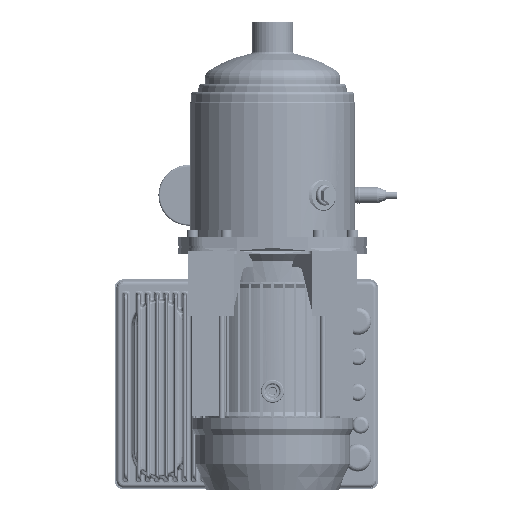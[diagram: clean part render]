
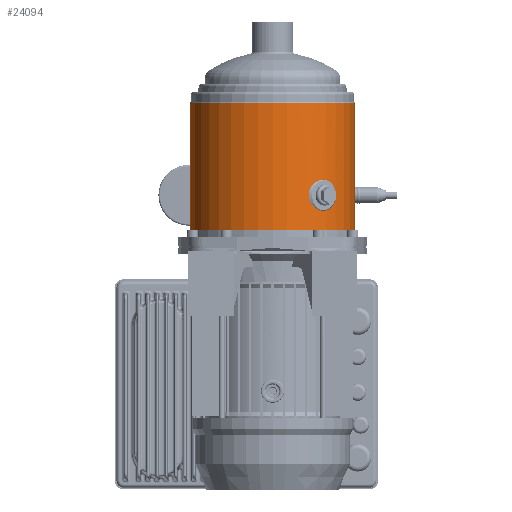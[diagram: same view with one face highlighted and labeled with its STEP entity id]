
A CAD part, front view. The second image highlights one B-rep face of the part: STEP entity #24094.
In plain terms, the highlighted cylindrical face has radius 72 mm (diameter 144 mm), a partial arc.
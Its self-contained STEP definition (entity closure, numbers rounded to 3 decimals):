
#21229=CARTESIAN_POINT('',(0.,8.4,0.));
#21230=DIRECTION('',(0.,1.,0.));
#21231=DIRECTION('',(0.,0.,-1.));
#21232=AXIS2_PLACEMENT_3D('',#21229,#21230,#21231);
#21303=DIRECTION('',(0.,1.,0.));
#21304=VECTOR('',#21303,110.614);
#21305=CARTESIAN_POINT('',(0.,8.4,-72.));
#21306=LINE('',#21305,#21304);
#21310=DIRECTION('',(0.,-1.,0.));
#21311=VECTOR('',#21310,110.614);
#21312=CARTESIAN_POINT('',(0.,119.014,72.));
#21313=LINE('',#21312,#21311);
#21317=CARTESIAN_POINT('',(-64.772,39.,
31.441));
#21318=CARTESIAN_POINT('',(-64.772,37.551,
31.441));
#21319=CARTESIAN_POINT('',(-64.552,34.752,
31.901));
#21320=CARTESIAN_POINT('',(-63.436,30.588,
34.11));
#21321=CARTESIAN_POINT('',(-61.387,27.256,
37.728));
#21322=CARTESIAN_POINT('',(-58.476,25.423,
42.129));
#21323=CARTESIAN_POINT('',(-55.02,25.424,
46.552));
#21324=CARTESIAN_POINT('',(-51.454,27.259,
50.44));
#21325=CARTESIAN_POINT('',(-48.44,30.593,
53.302));
#21326=CARTESIAN_POINT('',(-46.568,34.76,
54.919));
#21327=CARTESIAN_POINT('',(-46.177,37.554,
55.242));
#21328=CARTESIAN_POINT('',(-46.177,39.,
55.242));
#21333=CARTESIAN_POINT('',(-46.177,39.,
55.242));
#21334=CARTESIAN_POINT('',(-46.177,40.449,
55.242));
#21335=CARTESIAN_POINT('',(-46.57,43.248,
54.917));
#21336=CARTESIAN_POINT('',(-48.443,47.412,
53.3));
#21337=CARTESIAN_POINT('',(-51.458,50.744,
50.436));
#21338=CARTESIAN_POINT('',(-55.024,52.577,
46.547));
#21339=CARTESIAN_POINT('',(-58.48,52.576,
42.124));
#21340=CARTESIAN_POINT('',(-61.39,50.741,
37.723));
#21341=CARTESIAN_POINT('',(-63.438,47.407,
34.107));
#21342=CARTESIAN_POINT('',(-64.554,43.24,
31.899));
#21343=CARTESIAN_POINT('',(-64.772,40.446,
31.441));
#21344=CARTESIAN_POINT('',(-64.772,39.,
31.441));
#21357=CARTESIAN_POINT('',(0.,119.014,0.));
#21358=DIRECTION('',(0.,-1.,0.));
#21359=DIRECTION('',(0.,0.,1.));
#21360=AXIS2_PLACEMENT_3D('',#21357,#21358,#21359);
#23349=CARTESIAN_POINT('',(0.,8.4,72.));
#23350=CARTESIAN_POINT('',(0.,8.4,-72.));
#23351=VERTEX_POINT('',#23349);
#23352=VERTEX_POINT('',#23350);
#23353=CARTESIAN_POINT('',(0.,119.014,-72.));
#23354=VERTEX_POINT('',#23353);
#23355=CARTESIAN_POINT('',(0.,119.014,72.));
#23356=VERTEX_POINT('',#23355);
#23361=VERTEX_POINT('',#21317);
#23362=VERTEX_POINT('',#21328);
#24076=CARTESIAN_POINT('',(0.,121.227,0.));
#24077=DIRECTION('',(0.,-1.,0.));
#24078=DIRECTION('',(0.,0.,1.));
#24079=AXIS2_PLACEMENT_3D('',#24076,#24077,#24078);
#24080=CYLINDRICAL_SURFACE('',#24079,72.);
#24081=ORIENTED_EDGE('',*,*,#24054,.T.);
#24083=ORIENTED_EDGE('',*,*,#24082,.F.);
#24084=ORIENTED_EDGE('',*,*,#24057,.T.);
#24085=ORIENTED_EDGE('',*,*,#24044,.F.);
#24086=EDGE_LOOP('',(#24081,#24083,#24084,#24085));
#24087=FACE_OUTER_BOUND('',#24086,.F.);
#24089=ORIENTED_EDGE('',*,*,#24088,.T.);
#24091=ORIENTED_EDGE('',*,*,#24090,.T.);
#24092=EDGE_LOOP('',(#24089,#24091));
#24093=FACE_BOUND('',#24092,.F.);
#21233=CIRCLE('',#21232,72.);
#21329=B_SPLINE_CURVE_WITH_KNOTS('',3,(#21317,#21318,#21319,#21320,#21321,
#21322,#21323,#21324,#21325,#21326,#21327,#21328),.UNSPECIFIED.,.F.,.F.,(4,1,1,
1,1,1,1,1,1,4),(0.,0.111,0.222,0.333,
0.444,0.556,0.667,0.778,
0.889,1.),.UNSPECIFIED.);
#21345=B_SPLINE_CURVE_WITH_KNOTS('',3,(#21333,#21334,#21335,#21336,#21337,
#21338,#21339,#21340,#21341,#21342,#21343,#21344),.UNSPECIFIED.,.F.,.F.,(4,1,1,
1,1,1,1,1,1,4),(0.,0.111,0.222,0.333,
0.444,0.556,0.667,0.778,
0.889,1.),.UNSPECIFIED.);
#21361=CIRCLE('',#21360,72.);
#24044=EDGE_CURVE('',#23352,#23351,#21233,.T.);
#24054=EDGE_CURVE('',#23352,#23354,#21306,.T.);
#24057=EDGE_CURVE('',#23356,#23351,#21313,.T.);
#24082=EDGE_CURVE('',#23356,#23354,#21361,.T.);
#24088=EDGE_CURVE('',#23361,#23362,#21329,.T.);
#24090=EDGE_CURVE('',#23362,#23361,#21345,.T.);
#24094=ADVANCED_FACE('',(#24087,#24093),#24080,.T.);
